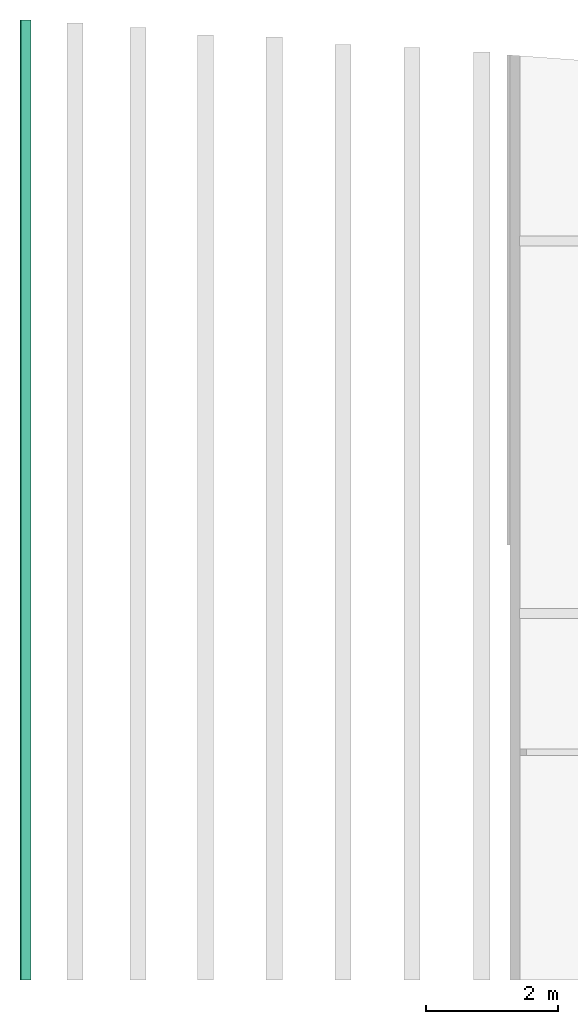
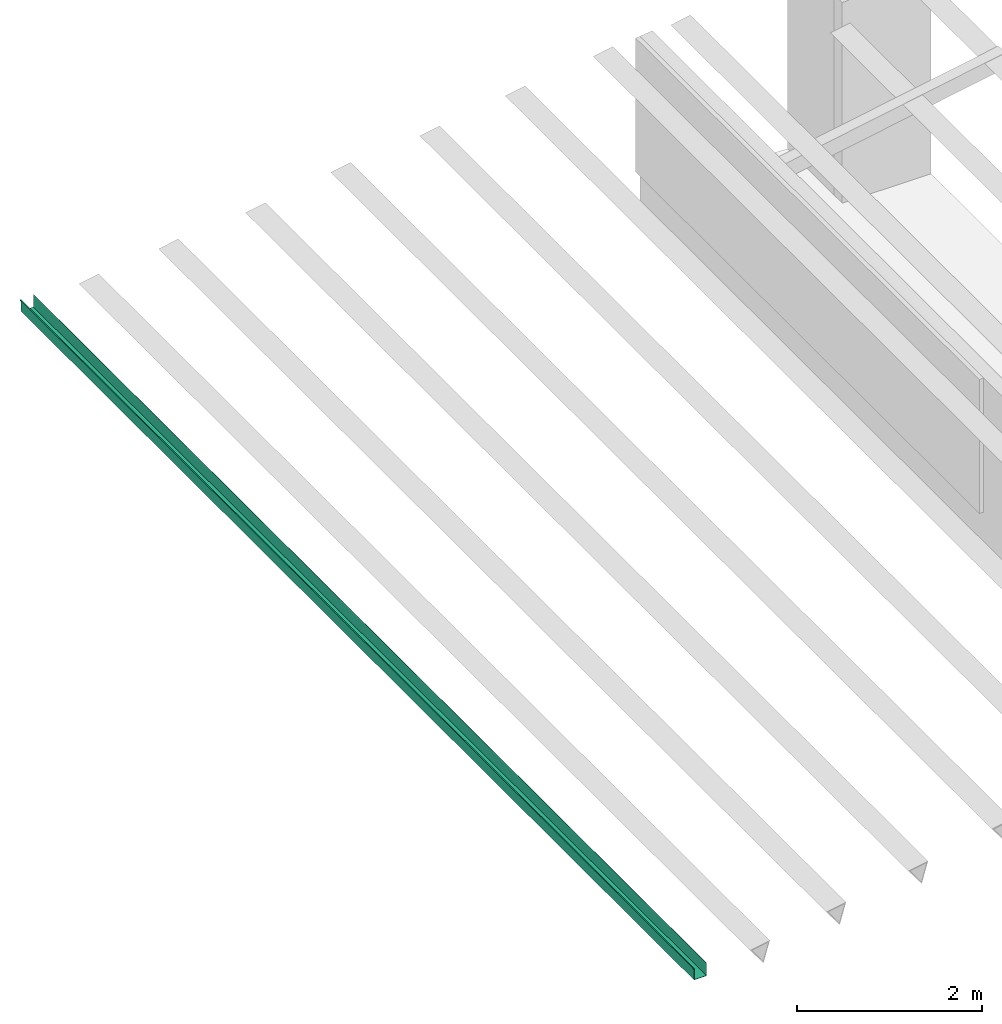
# One storey, part 3 of 4: 1 flow segment.
"""IFC2X3 building model written with IfcOpenShell, lengths in metres."""

from ifc_helpers import new_model, entity, si_unit, converted_unit, derived_unit, direction, frame, origin, place, context, subcontext, project, spatial, polyline, outline, extrude, source, transform, mapped, type_object, type_shapes, element, save


model = new_model("IFC2X3")

# Units and contexts
model_context = context("Model", 3, precision=1e-05, world=origin(), true_north=direction((6.12303176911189e-17, 1.0)))
body_context = subcontext(model_context, "Body", "Model", "MODEL_VIEW")
ifc_project = project(units=[si_unit("LENGTHUNIT", "METRE"), si_unit("AREAUNIT", "SQUARE_METRE"), si_unit("VOLUMEUNIT", "CUBIC_METRE"), converted_unit("PLANEANGLEUNIT", "DEGREE", entity("IfcRatioMeasure", 0.0174532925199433), si_unit("PLANEANGLEUNIT", "RADIAN"), dimensions=[0, 0, 0, 0, 0, 0, 0]), si_unit("MASSUNIT", "GRAM", prefix="KILO"), derived_unit("MASSDENSITYUNIT", [(si_unit("MASSUNIT", "GRAM", prefix="KILO"), 1), (si_unit("LENGTHUNIT", "METRE"), -3)]), derived_unit("MOMENTOFINERTIAUNIT", [(si_unit("LENGTHUNIT", "METRE"), 4)]), si_unit("TIMEUNIT", "SECOND"), si_unit("FREQUENCYUNIT", "HERTZ"), si_unit("THERMODYNAMICTEMPERATUREUNIT", "DEGREE_CELSIUS"), derived_unit("THERMALTRANSMITTANCEUNIT", [(si_unit("MASSUNIT", "GRAM", prefix="KILO"), 1), (si_unit("THERMODYNAMICTEMPERATUREUNIT", "KELVIN"), -1), (si_unit("TIMEUNIT", "SECOND"), -3)]), derived_unit("VOLUMETRICFLOWRATEUNIT", [(si_unit("LENGTHUNIT", "METRE"), 3), (si_unit("TIMEUNIT", "SECOND"), -1)]), si_unit("ELECTRICCURRENTUNIT", "AMPERE"), si_unit("ELECTRICVOLTAGEUNIT", "VOLT"), si_unit("POWERUNIT", "WATT"), si_unit("FORCEUNIT", "NEWTON", prefix="KILO"), si_unit("ILLUMINANCEUNIT", "LUX"), si_unit("LUMINOUSFLUXUNIT", "LUMEN"), si_unit("LUMINOUSINTENSITYUNIT", "CANDELA"), derived_unit("USERDEFINED", [(si_unit("MASSUNIT", "GRAM", prefix="KILO"), -1), (si_unit("LENGTHUNIT", "METRE"), -2), (si_unit("TIMEUNIT", "SECOND"), 3), (si_unit("LUMINOUSFLUXUNIT", "LUMEN"), 1)]), derived_unit("LINEARVELOCITYUNIT", [(si_unit("LENGTHUNIT", "METRE"), 1), (si_unit("TIMEUNIT", "SECOND"), -1)]), si_unit("PRESSUREUNIT", "PASCAL"), derived_unit("USERDEFINED", [(si_unit("LENGTHUNIT", "METRE"), -2), (si_unit("MASSUNIT", "GRAM", prefix="KILO"), 1), (si_unit("TIMEUNIT", "SECOND"), -2)]), derived_unit("LINEARFORCEUNIT", [(si_unit("MASSUNIT", "GRAM", prefix="KILO"), 1), (si_unit("LENGTHUNIT", "METRE"), 1), (si_unit("TIMEUNIT", "SECOND"), -2), (si_unit("LENGTHUNIT", "METRE"), -1)]), derived_unit("PLANARFORCEUNIT", [(si_unit("MASSUNIT", "GRAM", prefix="KILO"), 1), (si_unit("LENGTHUNIT", "METRE"), 1), (si_unit("TIMEUNIT", "SECOND"), -2), (si_unit("LENGTHUNIT", "METRE"), -2)])], contexts=[model_context])

# Site, building, storey
site_placement = place(None, origin())
site = spatial("IfcSite", under=ifc_project, at=site_placement, Name="Superficie", CompositionType="ELEMENT")
building_placement = place(site_placement, origin())
building = spatial("IfcBuilding", under=site, at=building_placement, Name="Telegestiones", CompositionType="ELEMENT")
storey_placement = place(building_placement, frame((0.0, 0.0, 3.21)))
storey = spatial("IfcBuildingStorey", under=building, at=storey_placement, Name="Entrepiso_NPT", CompositionType="ELEMENT", Elevation=3.21)

# Flow segment
pipe_segment_type = type_object("IfcPipeSegmentType", Name="Canalón:Canalón", PredefinedType="GUTTER")
shared_shape = source(origin(), body_context, "Body", "SweptSolid", [
    extrude(outline(polyline([(-0.115532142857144, -0.110996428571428), (0.0417678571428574, -0.110996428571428), (0.0417678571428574, 0.0336035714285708), (0.0544678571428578, 0.0336035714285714), (0.0544678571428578, 0.0463035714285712), (0.0417678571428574, 0.0463035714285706), (0.0417678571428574, 0.0431285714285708), (0.0512928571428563, 0.0431285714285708), (0.0512928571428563, 0.0367785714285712), (0.038592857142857, 0.0367785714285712), (0.038592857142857, -0.107821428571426), (-0.112357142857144, -0.107821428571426), (-0.112357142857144, 0.0590035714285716), (-0.115532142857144, 0.0590035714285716), (-0.115532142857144, -0.110996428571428)])), frame((-4.90071951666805, -4.08639277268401, 0.782924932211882), z_axis=(0.0, 1.0, 0.0), x_axis=(-1.0, 0.0, 0.0)), (0.0, 0.0, 1.0), 14.5518678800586),
])
type_shapes(pipe_segment_type, [shared_shape])
flow_segment_placement = place(storey_placement, origin())
element("IfcFlowSegment", 1, at=flow_segment_placement, inside=storey, type_object=pipe_segment_type, Name="Canalón:Canalón", ObjectType="Canalón:Canalón", context=body_context, shape_type="MappedRepresentation", body=[
    mapped(shared_shape, transform((0.0, 0.0, 0.0), scale=1.0)),
])

save(model, "model.ifc")
